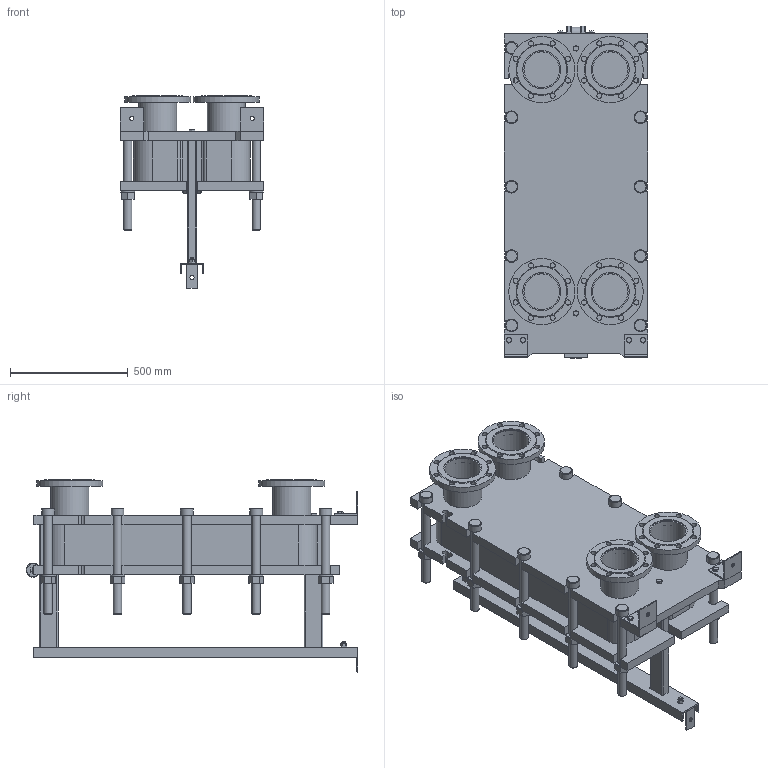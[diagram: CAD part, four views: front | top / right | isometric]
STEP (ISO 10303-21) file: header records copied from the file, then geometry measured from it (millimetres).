
FILE_DESCRIPTION(/* description */ (''),/* implementation_level */ '2;1');
FILE_NAME(/* name */ 'C:\Users\zhuro\Desktop\ENCO\TO\ЭН-041\ЭН-0,5-041-50-1.stp',/* time_stamp */ '2022-06-06T10:52:58+03:00',/* author */ ('zhuro'),/* organization */ (''),/* preprocessor_version */ 'ST-DEVELOPER v18.1',/* originating_system */ 'Autodesk Inventor 2022',/* authorisation */ '');
FILE_SCHEMA (('AUTOMOTIVE_DESIGN { 1 0 10303 214 3 1 1 }'));
Length unit declared in the file: millimetre
Products named in the file (1): ЭН-0,5-041-50-1
Bounding box: 610 x 1406.5 x 815 mm (x, y, z)
Volume: 173979954.6 mm3; surface area: 7922052.1 mm2
Topology: 52 solids, 52 shells, 711 faces, 1696 edges, 1094 vertices
Faces by surface type: plane 487, cylinder 177, cone 41, torus 6
Full cylindrical faces by diameter (mm): 8 x4, 10 x2, 16 x8, 18 x3, 22 x32, 36 x24, 50 x1, 54 x10, 60 x12, 151 x4, 161 x8, 280 x4
Entity records: 22667 total; most frequent: CARTESIAN_POINT 5230, DIRECTION 3644, ORIENTED_EDGE 3392, EDGE_CURVE 1696, AXIS2_PLACEMENT_3D 1272, LINE 1100, VECTOR 1100, VERTEX_POINT 1094
